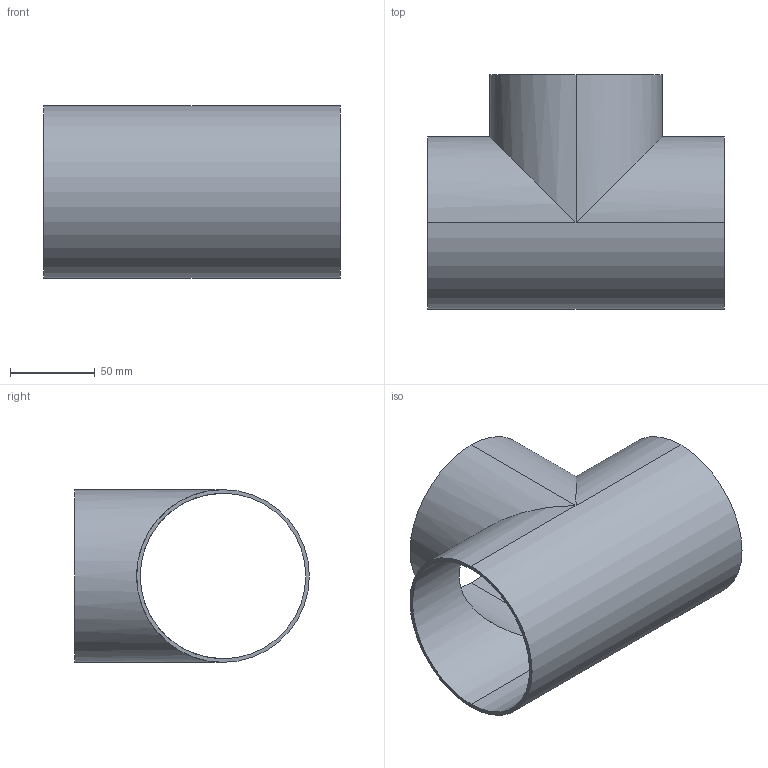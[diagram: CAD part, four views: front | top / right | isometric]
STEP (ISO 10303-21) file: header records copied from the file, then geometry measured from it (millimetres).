
FILE_DESCRIPTION (( 'STEP AP203' ), '1' );
FILE_NAME ('E7WWW4.0.STEP', '2018-05-02T17:57:01', ( 'vneprd' ), ( 'Microsoft' ), 'SwSTEP 2.0', 'SolidWorks 2014', '' );
FILE_SCHEMA (( 'CONFIG_CONTROL_DESIGN' ));
Length unit declared in the file: inch
Products named in the file (1): E7WWW4.0
Bounding box: 174.62 x 138.1 x 101.6 mm (x, y, z)
Volume: 130851.2 mm3; surface area: 126100.4 mm2
Topology: 1 solids, 1 shells, 13 faces, 28 edges, 16 vertices
Faces by surface type: cylinder 10, plane 3
Entity records: 437 total; most frequent: CARTESIAN_POINT 70, DIRECTION 64, ORIENTED_EDGE 56, EDGE_CURVE 28, AXIS2_PLACEMENT_3D 26, VERTEX_POINT 16, EDGE_LOOP 16, FACE_OUTER_BOUND 13
